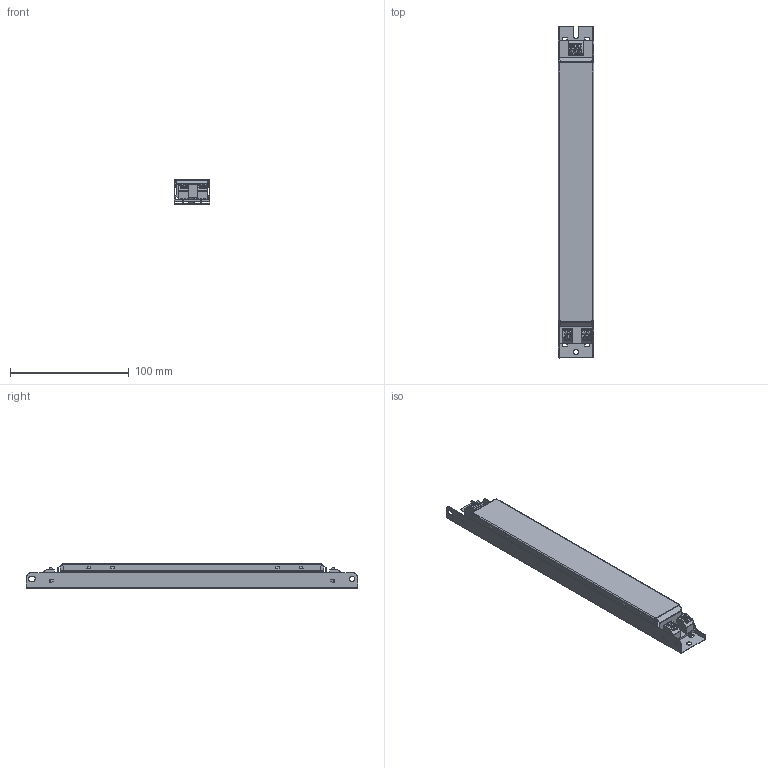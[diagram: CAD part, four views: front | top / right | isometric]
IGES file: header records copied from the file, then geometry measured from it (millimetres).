
Start section: SolidWorks IGES file using analytic representation for surfaces
Global section: file name: C:\Users\vuorinen_kari\Desktop\prj\LL1x110-E-CC\LL1x110-E-CC.IGS; native system: SolidWorks 2014; preprocessor: SolidWorks 2014; author: vuorinen_kari; date: 150217.132400; units: millimetre
Bounding box: 30.08 x 280 x 20.8 mm (x, y, z)
Surface area: 74028.3 mm2 (no closed solid volume)
Topology: 0 solids, 0 shells, 787 faces, 5923 edges, 5923 vertices
Faces by surface type: bspline 545, revolution 242
